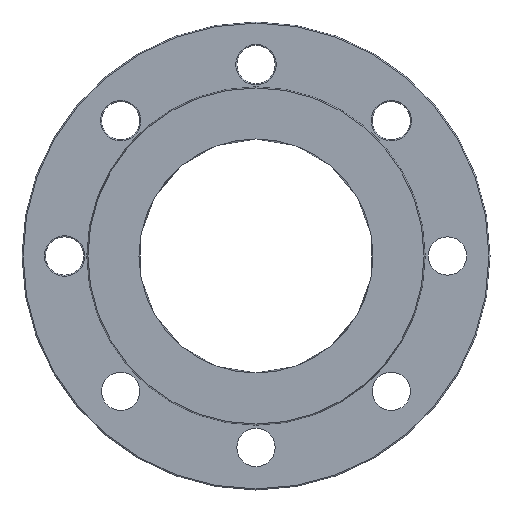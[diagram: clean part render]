
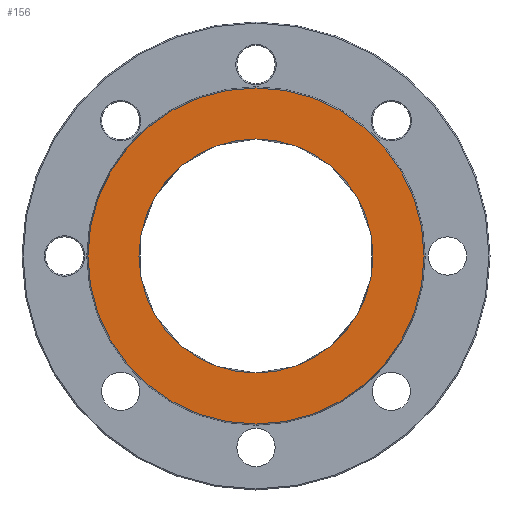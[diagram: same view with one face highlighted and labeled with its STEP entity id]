
A CAD part, left-side view. The second image highlights one B-rep face of the part: STEP entity #156.
In plain terms, the highlighted planar face has unit normal (-1, 0, 0).
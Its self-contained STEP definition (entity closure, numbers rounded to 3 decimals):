
#73 = AXIS2_PLACEMENT_3D ( 'NONE', #1368, #1369, #1370 ) ;
#75 = AXIS2_PLACEMENT_3D ( 'NONE', #1365, #1366, #1367 ) ;
#76 = CIRCLE ( 'NONE', #73, 79. ) ;
#80 = CIRCLE ( 'NONE', #75, 55. ) ;
#81 = AXIS2_PLACEMENT_3D ( 'NONE', #1355, #1356, #1357 ) ;
#84 = CIRCLE ( 'NONE', #81, 79. ) ;
#99 = CIRCLE ( 'NONE', #101, 55. ) ;
#101 = AXIS2_PLACEMENT_3D ( 'NONE', #1331, #1332, #1333 ) ;
#156 = ADVANCED_FACE ( 'NONE', ( #909, #910 ), #911, .F. ) ;
#266 = VERTEX_POINT ( 'NONE', #1052 ) ;
#269 = VERTEX_POINT ( 'NONE', #1055 ) ;
#274 = VERTEX_POINT ( 'NONE', #1060 ) ;
#275 = VERTEX_POINT ( 'NONE', #1061 ) ;
#366 = EDGE_LOOP ( 'NONE', ( #394, #395 ) ) ;
#391 = ORIENTED_EDGE ( 'NONE', *, *, #583, .T. ) ;
#394 = ORIENTED_EDGE ( 'NONE', *, *, #574, .F. ) ;
#395 = ORIENTED_EDGE ( 'NONE', *, *, #587, .F. ) ;
#396 = ORIENTED_EDGE ( 'NONE', *, *, #588, .T. ) ;
#574 = EDGE_CURVE ( 'NONE', #274, #269, #99, .T. ) ;
#583 = EDGE_CURVE ( 'NONE', #275, #266, #84, .T. ) ;
#587 = EDGE_CURVE ( 'NONE', #269, #274, #80, .T. ) ;
#588 = EDGE_CURVE ( 'NONE', #266, #275, #76, .T. ) ;
#690 = AXIS2_PLACEMENT_3D ( 'NONE', #901, #913, #914 ) ;
#884 = EDGE_LOOP ( 'NONE', ( #396, #391 ) ) ;
#901 = CARTESIAN_POINT ( 'NONE',  ( 0., 79., 0. ) ) ;
#909 = FACE_BOUND ( 'NONE', #366, .T. ) ;
#910 = FACE_OUTER_BOUND ( 'NONE', #884, .T. ) ;
#911 = PLANE ( 'NONE',  #690 ) ;
#913 = DIRECTION ( 'NONE',  ( 1., 0., 0. ) ) ;
#914 = DIRECTION ( 'NONE',  ( 0., 0., -1. ) ) ;
#1052 = CARTESIAN_POINT ( 'NONE',  ( 0., 0., -79. ) ) ;
#1055 = CARTESIAN_POINT ( 'NONE',  ( 0., 0., 55. ) ) ;
#1060 = CARTESIAN_POINT ( 'NONE',  ( 0., 0., -55. ) ) ;
#1061 = CARTESIAN_POINT ( 'NONE',  ( 0., 0., 79. ) ) ;
#1331 = CARTESIAN_POINT ( 'NONE',  ( 0., 0., 0. ) ) ;
#1332 = DIRECTION ( 'NONE',  ( -1., 0., 0. ) ) ;
#1333 = DIRECTION ( 'NONE',  ( 0., 0., 1. ) ) ;
#1355 = CARTESIAN_POINT ( 'NONE',  ( 0., 0., 0. ) ) ;
#1356 = DIRECTION ( 'NONE',  ( -1., 0., 0. ) ) ;
#1357 = DIRECTION ( 'NONE',  ( 0., 0., 1. ) ) ;
#1365 = CARTESIAN_POINT ( 'NONE',  ( 0., 0., 0. ) ) ;
#1366 = DIRECTION ( 'NONE',  ( -1., 0., 0. ) ) ;
#1367 = DIRECTION ( 'NONE',  ( 0., 0., 1. ) ) ;
#1368 = CARTESIAN_POINT ( 'NONE',  ( 0., 0., 0. ) ) ;
#1369 = DIRECTION ( 'NONE',  ( -1., 0., 0. ) ) ;
#1370 = DIRECTION ( 'NONE',  ( 0., 0., 1. ) ) ;
